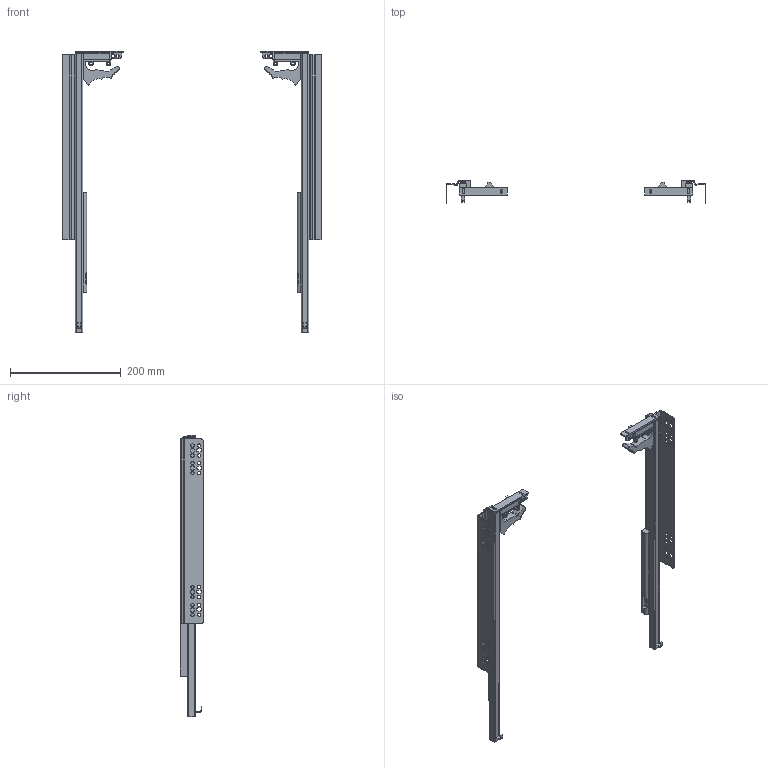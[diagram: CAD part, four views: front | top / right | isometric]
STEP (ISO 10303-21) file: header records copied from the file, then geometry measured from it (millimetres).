
FILE_DESCRIPTION(/* description */ ('Akc'),/* implementation_level */ '2;1');
FILE_NAME(/* name */ 'C:\Users\dmitruk\Documents\WORK\НАПРАВЛЯЮЩИЕ\Скрытого монтажа\Q-Type\Q-Type с замками (18 мм)\Q-Type с замками (18 мм)-500.stp',/* time_stamp */ '2022-04-22T17:47:14+03:00',/* author */ ('dmitruk'),/* organization */ (''),/* preprocessor_version */ 'ST-DEVELOPER v16.5',/* originating_system */ 'Autodesk Inventor 2017',/* authorisation */ '');
FILE_SCHEMA (('AUTOMOTIVE_DESIGN { 1 0 10303 214 3 1 1 }'));
Length unit declared in the file: millimetre
Products named in the file (6): Q-Type с замками 
(18 мм); Q-Type с замками \X2\043E0441
043D043E04320430043D04380435\X0\ L (18 мм); Q-Type с замками \X2\043E0441
043D043E04320430043D04380435\X0\ P (18 мм); Q-Type с замками 
выдвижение P; Крепление QType; Крепление QType P
Assembly tree (6 placements, depth 2):
  Q-Type с замками 
(18 мм)
    Q-Type с замками \X2\043E0441
043D043E04320430043D04380435\X0\ L (18 мм)
    Q-Type с замками 
выдвижение P  x2
    Q-Type с замками \X2\043E0441
043D043E04320430043D04380435\X0\ P (18 мм)
    Крепление QType
    Крепление QType P
Bounding box: 469.18 x 42 x 510 mm (x, y, z)
Volume: 256895.9 mm3; surface area: 278759 mm2
Topology: 14 solids, 14 shells, 570 faces, 1552 edges, 1014 vertices
Faces by surface type: plane 334, cylinder 212, cone 20, bspline 4
Full cylindrical faces by diameter (mm): 4.5 x4, 6 x32
Entity records: 17193 total; most frequent: CARTESIAN_POINT 2985, DIRECTION 2874, ORIENTED_EDGE 2800, EDGE_CURVE 1400, LINE 980, VECTOR 980, AXIS2_PLACEMENT_3D 947, VERTEX_POINT 942
